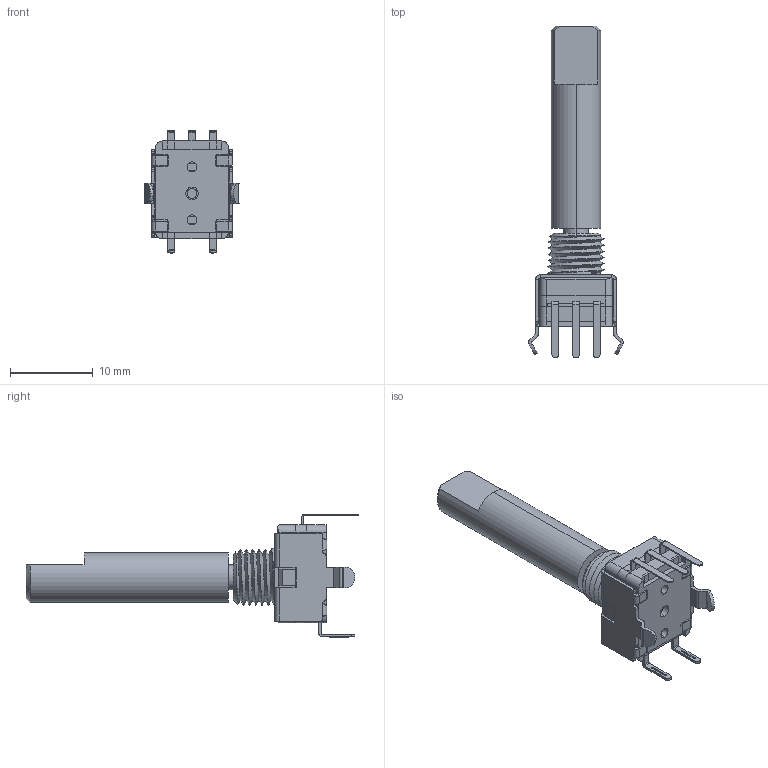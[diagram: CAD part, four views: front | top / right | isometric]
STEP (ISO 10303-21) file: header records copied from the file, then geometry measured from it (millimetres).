
FILE_DESCRIPTION (( 'STEP AP203' ), '1' );
FILE_NAME ('290VBC0F201B2.STEP', '2019-05-28T01:22:24', ( '' ), ( '' ), 'SwSTEP 2.0', 'SolidWorks 2019', '' );
FILE_SCHEMA (( 'CONFIG_CONTROL_DESIGN' ));
Length unit declared in the file: millimetre
Products named in the file (9): SignalContactLeadFrame_290830111812_2; D290S-DF-12128-EG_15mmFMS; ContactHousing_2900200x4212; 290VBC0F201B2; SwContactLeadFrame290830310612; SwBase_290102004212; MtgPlate_290080020701; 290040022501_5mmBushing
Assembly tree (8 placements, depth 3):
  290VBC0F201B2
    SignalContactLeadFrame_290830111812_2
    ContactHousing_2900200x4212
    SwBase_290102004212
      SwContactLeadFrame290830310612
      SwBase_290102004212
    MtgPlate_290080020701
    290040022501_5mmBushing
    D290S-DF-12128-EG_15mmFMS
Bounding box: 11.41 x 40.06 x 14.87 mm (x, y, z)
Volume: 1292.8 mm3; surface area: 2523.4 mm2
Topology: 7 solids, 7 shells, 968 faces, 2571 edges, 1624 vertices
Faces by surface type: plane 557, cylinder 334, bspline 36, cone 29, sphere 10, torus 2
Entity records: 31785 total; most frequent: CARTESIAN_POINT 6713, ORIENTED_EDGE 5110, DIRECTION 4972, EDGE_CURVE 2555, VECTOR 1704, LINE 1704, AXIS2_PLACEMENT_3D 1634, VERTEX_POINT 1616
